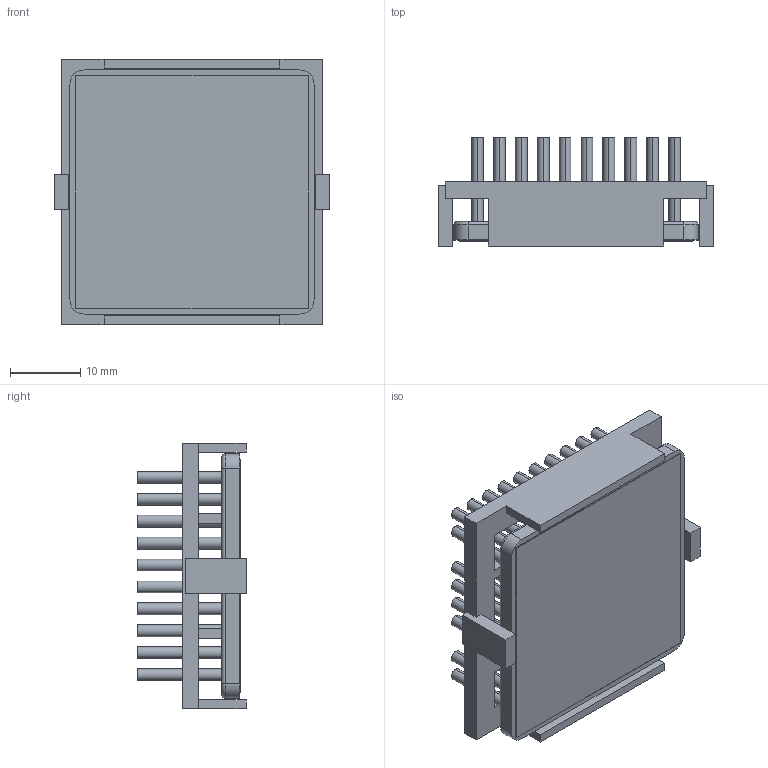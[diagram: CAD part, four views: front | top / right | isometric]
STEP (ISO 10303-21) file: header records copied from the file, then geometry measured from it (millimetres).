
FILE_DESCRIPTION (( 'STEP AP214' ), '1' );
FILE_NAME ('INM35002-15P-2.6O.STEP', '2023-02-21T00:04:13', ( '' ), ( '' ), 'SwSTEP 2.0', 'SolidWorks 2020', '' );
FILE_SCHEMA (( 'AUTOMOTIVE_DESIGN' ));
Length unit declared in the file: inch
Products named in the file (1): INM35002-15P-2.6O
Bounding box: 39.2 x 15.6 x 37.7 mm (x, y, z)
Volume: 7519.9 mm3; surface area: 13531.9 mm2
Topology: 3 solids, 3 shells, 354 faces, 760 edges, 504 vertices
Faces by surface type: cylinder 192, plane 158, torus 4
Entity records: 14416 total; most frequent: DIRECTION 1858, CARTESIAN_POINT 1619, ORIENTED_EDGE 1520, EDGE_CURVE 760, AXIS2_PLACEMENT_3D 743, VERTEX_POINT 504, EDGE_LOOP 448, CIRCLE 388
